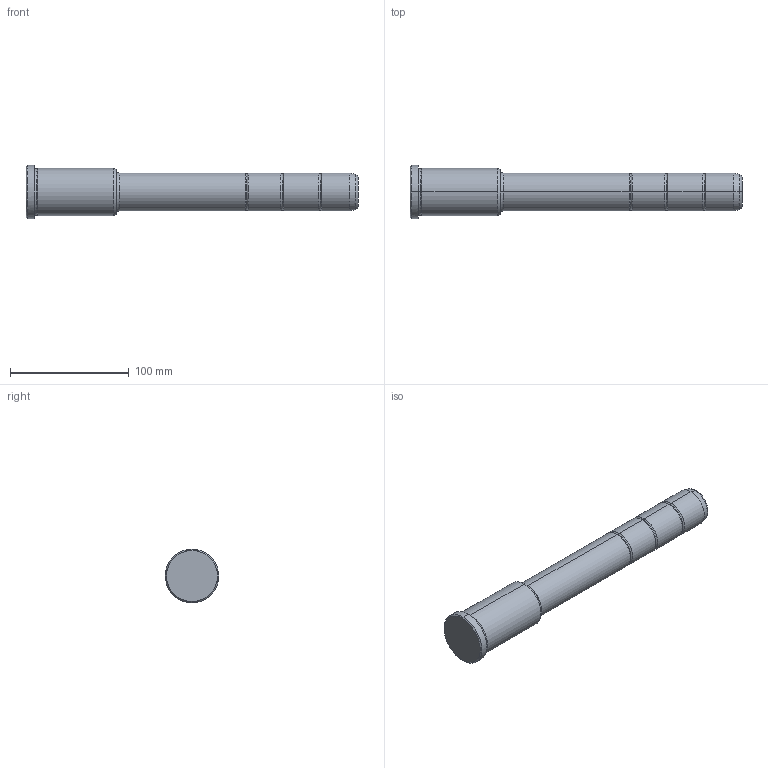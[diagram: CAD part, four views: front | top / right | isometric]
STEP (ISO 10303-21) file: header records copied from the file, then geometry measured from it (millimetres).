
FILE_DESCRIPTION(('CATIA V5 STEP Exchange'),'2;1');
FILE_NAME('C:\Users\Utente\Desktop\IO LAVORO\3D X SITO CF\X SITO\PLASTICA\351\351-32X76X280.stp','2021-09-07T13:56:56+00:00',('none'),('none'),'CATIA Version 5 Release 20 GA (IN-10)','CATIA V5 STEP AP203','none');
FILE_SCHEMA(('CONFIG_CONTROL_DESIGN'));
Length unit declared in the file: millimetre
Products named in the file (1): 351-32X76X280
Bounding box: 280 x 45 x 45 mm (x, y, z)
Volume: 260560.4 mm3; surface area: 32974.1 mm2
Topology: 1 solids, 1 shells, 42 faces, 118 edges, 80 vertices
Faces by surface type: torus 20, cylinder 12, cone 6, plane 4
Entity records: 1472 total; most frequent: CARTESIAN_POINT 353, ORIENTED_EDGE 236, DIRECTION 194, AXIS2_PLACEMENT_3D 135, EDGE_CURVE 118, CIRCLE 92, VERTEX_POINT 80, EDGE_LOOP 44
